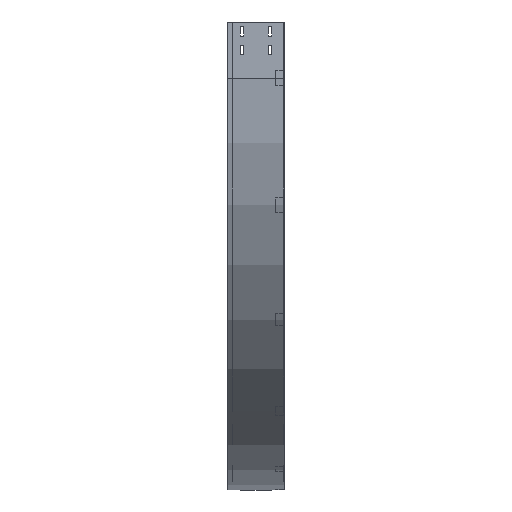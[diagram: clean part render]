
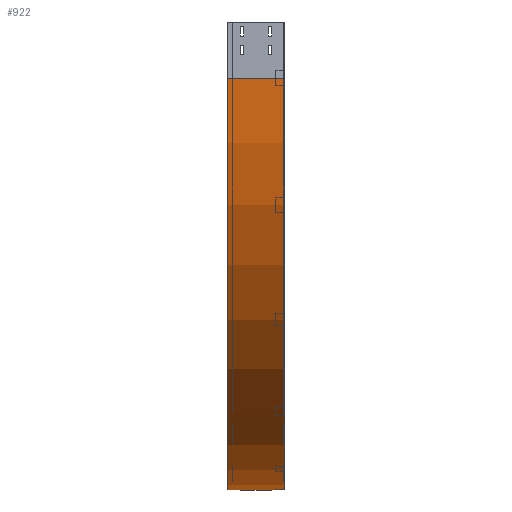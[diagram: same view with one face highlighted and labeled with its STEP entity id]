
A CAD part, left-side view. The second image highlights one B-rep face of the part: STEP entity #922.
In plain terms, the highlighted cylindrical face has radius 1100 mm (diameter 2200 mm), a partial arc.
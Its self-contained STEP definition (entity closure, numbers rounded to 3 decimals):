
#229 = EDGE_LOOP ( 'NONE', ( #785, #455, #1179, #2113 ) ) ;
#256 = FACE_OUTER_BOUND ( 'NONE', #229, .T. ) ;
#386 = CIRCLE ( 'NONE', #2517, 1100. ) ;
#455 = ORIENTED_EDGE ( 'NONE', *, *, #3854, .F. ) ;
#492 = DIRECTION ( 'NONE',  ( -1., 0., 0. ) ) ;
#561 = CIRCLE ( 'NONE', #1495, 1100. ) ;
#785 = ORIENTED_EDGE ( 'NONE', *, *, #2581, .F. ) ;
#816 = VERTEX_POINT ( 'NONE', #999 ) ;
#922 = ADVANCED_FACE ( 'NONE', ( #256 ), #2631, .T. ) ;
#999 = CARTESIAN_POINT ( 'NONE',  ( 0., 150., -150. ) ) ;
#1170 = AXIS2_PLACEMENT_3D ( 'NONE', #1747, #2937, #1460 ) ;
#1179 = ORIENTED_EDGE ( 'NONE', *, *, #2247, .T. ) ;
#1399 = DIRECTION ( 'NONE',  ( 0., -1., 0. ) ) ;
#1460 = DIRECTION ( 'NONE',  ( 0., 0., -1. ) ) ;
#1495 = AXIS2_PLACEMENT_3D ( 'NONE', #1895, #3344, #1932 ) ;
#1668 = VERTEX_POINT ( 'NONE', #2657 ) ;
#1705 = VECTOR ( 'NONE', #2490, 1000. ) ;
#1747 = CARTESIAN_POINT ( 'NONE',  ( 1100., 0., -150. ) ) ;
#1895 = CARTESIAN_POINT ( 'NONE',  ( 1100., 0., -150. ) ) ;
#1932 = DIRECTION ( 'NONE',  ( -1., 0., 0. ) ) ;
#2113 = ORIENTED_EDGE ( 'NONE', *, *, #3404, .T. ) ;
#2190 = LINE ( 'NONE', #2702, #3132 ) ;
#2247 = EDGE_CURVE ( 'NONE', #816, #1668, #386, .T. ) ;
#2490 = DIRECTION ( 'NONE',  ( 0., -1., 0. ) ) ;
#2517 = AXIS2_PLACEMENT_3D ( 'NONE', #2782, #1399, #492 ) ;
#2581 = EDGE_CURVE ( 'NONE', #3415, #2851, #561, .T. ) ;
#2631 = CYLINDRICAL_SURFACE ( 'NONE', #1170, 1100. ) ;
#2657 = CARTESIAN_POINT ( 'NONE',  ( 1100., 150., -1250. ) ) ;
#2693 = CARTESIAN_POINT ( 'NONE',  ( 1100., 0., -1250. ) ) ;
#2702 = CARTESIAN_POINT ( 'NONE',  ( 0., 0., -150. ) ) ;
#2739 = DIRECTION ( 'NONE',  ( 0., -1., 0. ) ) ;
#2782 = CARTESIAN_POINT ( 'NONE',  ( 1100., 150., -150. ) ) ;
#2851 = VERTEX_POINT ( 'NONE', #2693 ) ;
#2937 = DIRECTION ( 'NONE',  ( 0., -1., 0. ) ) ;
#3074 = CARTESIAN_POINT ( 'NONE',  ( 1100., 0., -1250. ) ) ;
#3132 = VECTOR ( 'NONE', #2739, 1000. ) ;
#3344 = DIRECTION ( 'NONE',  ( 0., -1., 0. ) ) ;
#3404 = EDGE_CURVE ( 'NONE', #1668, #2851, #3611, .T. ) ;
#3415 = VERTEX_POINT ( 'NONE', #3646 ) ;
#3611 = LINE ( 'NONE', #3074, #1705 ) ;
#3646 = CARTESIAN_POINT ( 'NONE',  ( 0., 0., -150. ) ) ;
#3854 = EDGE_CURVE ( 'NONE', #816, #3415, #2190, .T. ) ;
